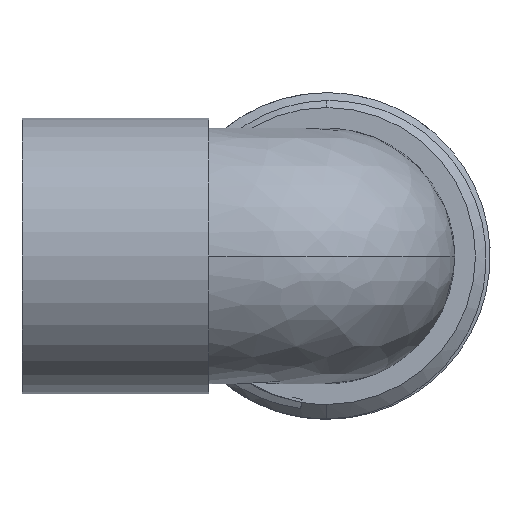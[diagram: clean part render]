
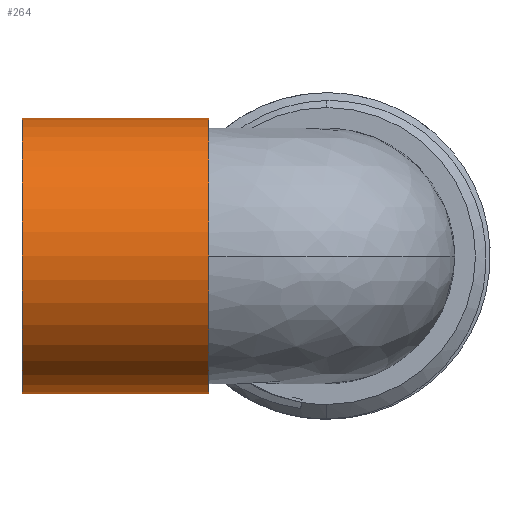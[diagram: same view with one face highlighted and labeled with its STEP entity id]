
A CAD part, left-side view. The second image highlights one B-rep face of the part: STEP entity #264.
In plain terms, the highlighted cylindrical face has radius 14 mm (diameter 28 mm), a partial arc.
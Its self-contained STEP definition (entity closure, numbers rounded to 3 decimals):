
#264 = ADVANCED_FACE ( 'NONE', ( #2229 ), #2227, .T. ) ;
#265 = EDGE_LOOP ( 'NONE', ( #266, #318, #320, #321 ) ) ;
#266 = ORIENTED_EDGE ( 'NONE', *, *, #342, .F. ) ;
#304 = VERTEX_POINT ( 'NONE', #2507 ) ;
#306 = EDGE_CURVE ( 'NONE', #307, #304, #2506, .T. ) ;
#307 = VERTEX_POINT ( 'NONE', #2502 ) ;
#318 = ORIENTED_EDGE ( 'NONE', *, *, #319, .T. ) ;
#319 = EDGE_CURVE ( 'NONE', #340, #307, #2758, .T. ) ;
#320 = ORIENTED_EDGE ( 'NONE', *, *, #306, .T. ) ;
#321 = ORIENTED_EDGE ( 'NONE', *, *, #322, .F. ) ;
#322 = EDGE_CURVE ( 'NONE', #343, #304, #2754, .T. ) ;
#340 = VERTEX_POINT ( 'NONE', #2780 ) ;
#342 = EDGE_CURVE ( 'NONE', #340, #343, #2779, .T. ) ;
#343 = VERTEX_POINT ( 'NONE', #2775 ) ;
#2226 = AXIS2_PLACEMENT_3D ( 'NONE', #2261, #2260, #2259 ) ;
#2227 = CYLINDRICAL_SURFACE ( 'NONE', #2226, 14. ) ;
#2229 = FACE_OUTER_BOUND ( 'NONE', #265, .T. ) ;
#2259 = DIRECTION ( 'NONE',  ( 0., 0., 1. ) ) ;
#2260 = DIRECTION ( 'NONE',  ( 0., 1., 0. ) ) ;
#2261 = CARTESIAN_POINT ( 'NONE',  ( 0., 50.555, 0. ) ) ;
#2502 = CARTESIAN_POINT ( 'NONE',  ( 0., 12., 14. ) ) ;
#2503 = DIRECTION ( 'NONE',  ( 0., 1., 0. ) ) ;
#2504 = VECTOR ( 'NONE', #2503, 1000. ) ;
#2505 = CARTESIAN_POINT ( 'NONE',  ( 0., 50.555, 14. ) ) ;
#2506 = LINE ( 'NONE', #2505, #2504 ) ;
#2507 = CARTESIAN_POINT ( 'NONE',  ( 0., 31., 14. ) ) ;
#2750 = DIRECTION ( 'NONE',  ( 0., 0., 1. ) ) ;
#2751 = DIRECTION ( 'NONE',  ( 0., 1., 0. ) ) ;
#2752 = CARTESIAN_POINT ( 'NONE',  ( 0., 31., 0. ) ) ;
#2753 = AXIS2_PLACEMENT_3D ( 'NONE', #2752, #2751, #2750 ) ;
#2754 = CIRCLE ( 'NONE', #2753, 14. ) ;
#2755 = DIRECTION ( 'NONE',  ( 0., 0., 1. ) ) ;
#2756 = DIRECTION ( 'NONE',  ( 0., 1., 0. ) ) ;
#2757 = AXIS2_PLACEMENT_3D ( 'NONE', #2764, #2756, #2755 ) ;
#2758 = CIRCLE ( 'NONE', #2757, 14. ) ;
#2764 = CARTESIAN_POINT ( 'NONE',  ( 0., 12., 0. ) ) ;
#2775 = CARTESIAN_POINT ( 'NONE',  ( 0., 31., -14. ) ) ;
#2776 = DIRECTION ( 'NONE',  ( 0., 1., 0. ) ) ;
#2777 = VECTOR ( 'NONE', #2776, 1000. ) ;
#2778 = CARTESIAN_POINT ( 'NONE',  ( 0., 50.555, -14. ) ) ;
#2779 = LINE ( 'NONE', #2778, #2777 ) ;
#2780 = CARTESIAN_POINT ( 'NONE',  ( 0., 12., -14. ) ) ;
